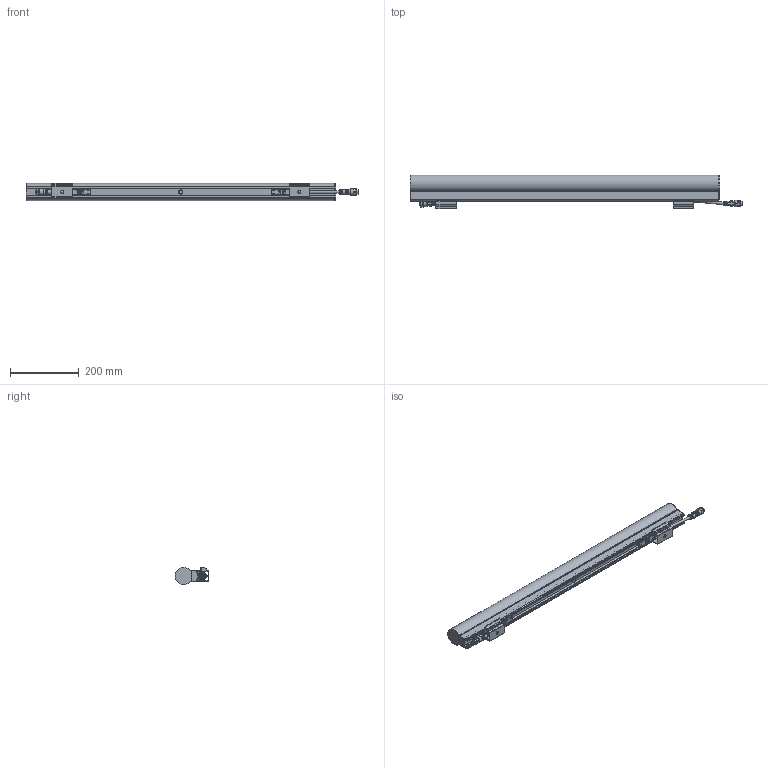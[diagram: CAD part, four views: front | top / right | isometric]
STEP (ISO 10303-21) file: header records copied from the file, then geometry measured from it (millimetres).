
FILE_DESCRIPTION (( 'STEP AP214' ), '1' );
FILE_NAME ('E series 2 Tube L900.STEP', '2025-11-24T13:40:41', ( '' ), ( '' ), 'SwSTEP 2.0', 'SolidWorks 2025', '' );
FILE_SCHEMA (( 'AUTOMOTIVE_DESIGN' ));
Length unit declared in the file: millimetre
Products named in the file (12): Counter sunk screw torx_M3x16; E series 2 mounting clip bottom; Part1^E series 2; Counter sunk screw torx_M2.5x16; D & E Series 2 breathing valve; M16 5p Female; E series 2 Tube L900; E series 2 with dome cover body and bare config_Bare 900mm; M16 5p Male; Part2^E series 2; E series 2 with round cover body_900mm; E series 2 mounting clip top
Assembly tree (27 placements, depth 2):
  E series 2 Tube L900
    E series 2 with dome cover body and bare config_Bare 900mm
    Counter sunk screw torx_M2.5x16  x12
    E series 2 mounting clip bottom  x2
    E series 2 mounting clip top  x2
    Counter sunk screw torx_M3x16  x4
    E series 2 with round cover body_900mm
    M16 5p Female
    Part2^E series 2
    M16 5p Male
    Part1^E series 2
    D & E Series 2 breathing valve
Bounding box: 965.55 x 98.61 x 49.96 mm (x, y, z)
Volume: 2371081.9 mm3; surface area: 312368.8 mm2
Topology: 33 solids, 36 shells, 1772 faces, 4411 edges, 2780 vertices
Faces by surface type: cylinder 742, plane 615, torus 141, bspline 130, cone 118, sphere 26
Full cylindrical faces by diameter (mm): 2.4 x2, 2.5 x12, 3 x4, 4.5 x12, 5.81 x4, 9.2 x1, 11.1 x1, 14.25 x1, 14.3 x1, 18 x1
Entity records: 61679 total; most frequent: CARTESIAN_POINT 20217, ORIENTED_EDGE 6964, DIRECTION 6588, EDGE_CURVE 3482, AXIS2_PLACEMENT_3D 2559, VERTEX_POINT 2204, EDGE_LOOP 1578, VECTOR 1470
